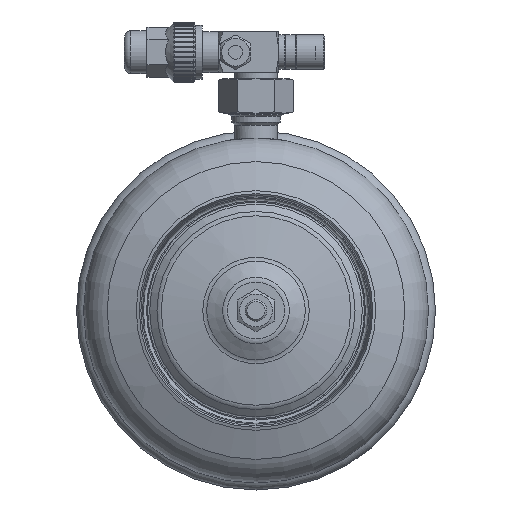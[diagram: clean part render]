
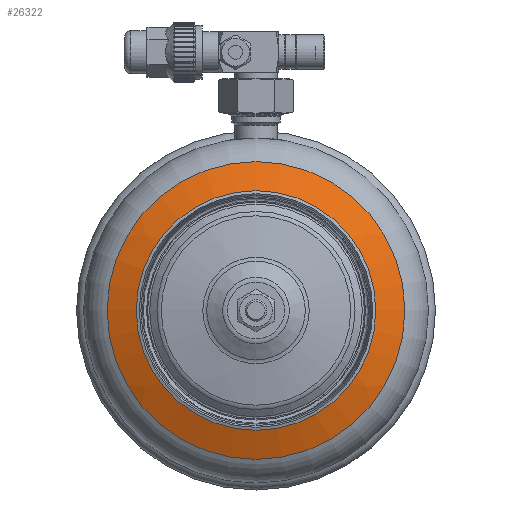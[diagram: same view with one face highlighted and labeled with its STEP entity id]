
A CAD part, front view. The second image highlights one B-rep face of the part: STEP entity #26322.
In plain terms, the highlighted spherical face has radius 163 mm.
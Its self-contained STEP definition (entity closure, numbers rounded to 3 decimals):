
#252=SPHERICAL_SURFACE('',#27678,163.);
#1013=FACE_BOUND('',#5788,.T.);
#4123=FACE_OUTER_BOUND('',#5787,.T.);
#5787=EDGE_LOOP('',(#23439));
#5788=EDGE_LOOP('',(#23440));
#10262=CIRCLE('',#27578,50.312);
#10298=CIRCLE('',#27676,69.049);
#12643=VERTEX_POINT('',#56417);
#12712=VERTEX_POINT('',#56710);
#16294=EDGE_CURVE('',#12643,#12643,#10262,.T.);
#16387=EDGE_CURVE('',#12712,#12712,#10298,.T.);
#23439=ORIENTED_EDGE('',*,*,#16387,.T.);
#23440=ORIENTED_EDGE('',*,*,#16294,.F.);
#26322=ADVANCED_FACE('',(#4123,#1013),#252,.T.);
#27578=AXIS2_PLACEMENT_3D('',#56418,#31601,#31602);
#27676=AXIS2_PLACEMENT_3D('',#56711,#31829,#31830);
#27678=AXIS2_PLACEMENT_3D('',#56713,#31833,#31834);
#31601=DIRECTION('center_axis',(0.,-1.,0.));
#31602=DIRECTION('ref_axis',(0.,0.,-1.));
#31829=DIRECTION('center_axis',(0.,-1.,0.));
#31830=DIRECTION('ref_axis',(-1.,0.,0.));
#31833=DIRECTION('center_axis',(0.,0.,
-1.));
#31834=DIRECTION('ref_axis',(1.,0.,0.));
#56417=CARTESIAN_POINT('',(50.312,-169.041,0.));
#56418=CARTESIAN_POINT('Origin',(0.,-169.041,
0.));
#56710=CARTESIAN_POINT('',(69.049,-161.653,0.));
#56711=CARTESIAN_POINT('Origin',(0.,-161.653,
0.));
#56713=CARTESIAN_POINT('Origin',(0.,-14.,
0.));
